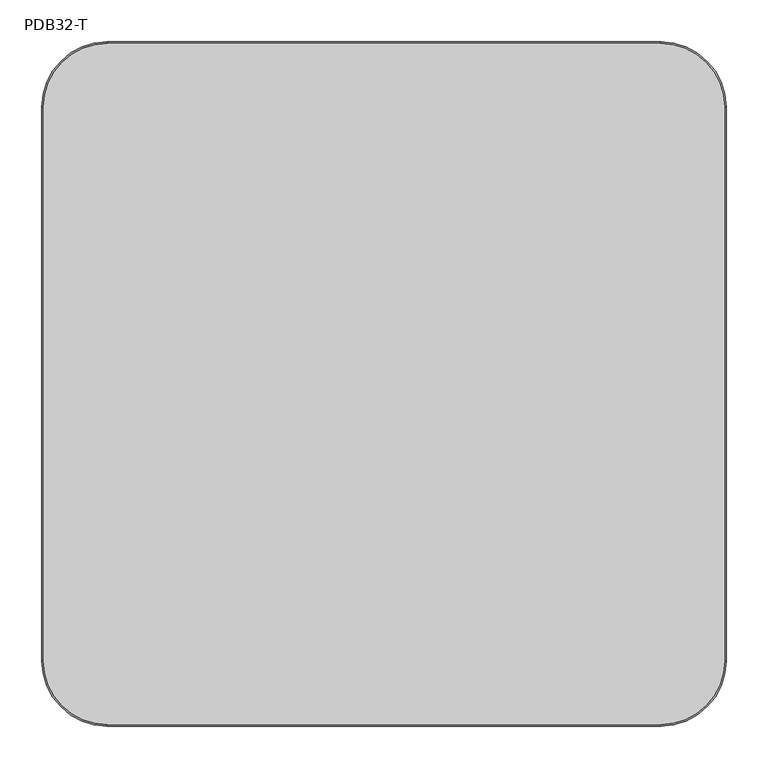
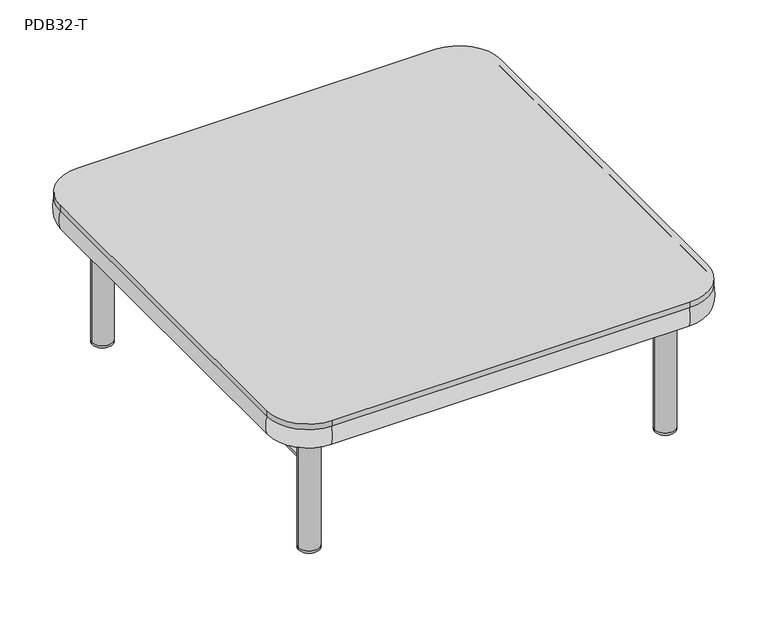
"""IFC4 building model written with IfcOpenShell, lengths in millimetres: furniture geometry, StanceHC-Podium-Lounge_Seating-32_Table : PDB32-T."""

from ifc_helpers import new_model, si_unit, point, frame, frame_2d, origin, origin_with_axes, place, context, project, spatial, polyline, circle_curve, ellipse_curve, trimmed, segment, composite_curve, outline, extrude, source, transform, mapped, element, save
from ifc_brep_helpers import plane_surface, revolved_surface, extruded_surface, advanced_brep


def pdb32_t_8c2d0d75(model_context):
    return source(origin(), model_context, "Body", "SolidModel", [
        extrude(outline(composite_curve([segment(polyline([(687.3875, -771.525), (687.3875, -701.675)]), True, "CONTINUOUS"), segment(trimmed(circle_curve(frame_2d((700.0875, -701.675)), 12.7), [point((687.3875, -701.675))], [point((700.0875, -688.975))], False, "CARTESIAN"), True, "CONTINUOUS"), segment(polyline([(700.0875, -688.975), (769.9375, -688.975)]), True, "CONTINUOUS"), segment(trimmed(circle_curve(frame_2d((769.9375, -701.675)), 12.7), [point((769.9375, -688.975))], [point((782.6375, -701.675))], False, "CARTESIAN"), True, "CONTINUOUS"), segment(polyline([(782.6375, -701.675), (782.6375, -771.525)]), True, "CONTINUOUS"), segment(trimmed(circle_curve(frame_2d((769.9375, -771.525)), 12.7), [point((782.6375, -771.525))], [point((769.9375, -784.225))], False, "CARTESIAN"), True, "CONTINUOUS"), segment(polyline([(769.9375, -784.225), (700.0875, -784.225)]), True, "CONTINUOUS"), segment(trimmed(circle_curve(frame_2d((700.0875, -771.525)), 12.7), [point((700.0875, -784.225))], [point((687.3875, -771.525))], False, "CARTESIAN"), True, "CONTINUOUS")], self_intersect=False)), frame((0.0, 0.0, 240.7285), z_axis=(0.0, 0.0, 1.0), x_axis=(1.0, 0.0, 0.0)), (0.0, 0.0, 1.0), 4.7625),
        extrude(outline(composite_curve([segment(trimmed(circle_curve(frame_2d((735.0125, -736.6)), 19.05), [point((715.9625, -736.6))], [point((754.0625, -736.6))], False, "CARTESIAN"), True, "CONTINUOUS"), segment(trimmed(circle_curve(frame_2d((735.0125, -736.6)), 19.05), [point((754.0625, -736.6))], [point((715.9625, -736.6))], False, "CARTESIAN"), True, "CONTINUOUS")], self_intersect=False)), frame((0.0, 0.0, 4.191), z_axis=(0.0, 0.0, 1.0), x_axis=(1.0, 0.0, 0.0)), (0.0, 0.0, 1.0), 236.5375),
        extrude(outline(composite_curve([segment(trimmed(circle_curve(frame_2d((735.0125, -736.6)), 19.05), [point((715.9625, -736.6))], [point((754.0625, -736.6))], False, "CARTESIAN"), True, "CONTINUOUS"), segment(trimmed(circle_curve(frame_2d((735.0125, -736.6)), 19.05), [point((754.0625, -736.6))], [point((715.9625, -736.6))], False, "CARTESIAN"), True, "CONTINUOUS")], self_intersect=False)), origin_with_axes(), (0.0, 0.0, 1.0), 4.191),
        extrude(outline(composite_curve([segment(polyline([(687.3875, -111.125), (687.3875, -41.275)]), True, "CONTINUOUS"), segment(trimmed(circle_curve(frame_2d((700.0875, -41.275)), 12.7), [point((687.3875, -41.275))], [point((700.0875, -28.575))], False, "CARTESIAN"), True, "CONTINUOUS"), segment(polyline([(700.0875, -28.575), (769.9375, -28.575)]), True, "CONTINUOUS"), segment(trimmed(circle_curve(frame_2d((769.9375, -41.275)), 12.7), [point((769.9375, -28.575))], [point((782.6375, -41.275))], False, "CARTESIAN"), True, "CONTINUOUS"), segment(polyline([(782.6375, -41.275), (782.6375, -111.125)]), True, "CONTINUOUS"), segment(trimmed(circle_curve(frame_2d((769.9375, -111.125)), 12.7), [point((782.6375, -111.125))], [point((769.9375, -123.825))], False, "CARTESIAN"), True, "CONTINUOUS"), segment(polyline([(769.9375, -123.825), (700.0875, -123.825)]), True, "CONTINUOUS"), segment(trimmed(circle_curve(frame_2d((700.0875, -111.125)), 12.7), [point((700.0875, -123.825))], [point((687.3875, -111.125))], False, "CARTESIAN"), True, "CONTINUOUS")], self_intersect=False)), frame((0.0, 0.0, 240.7285), z_axis=(0.0, 0.0, 1.0), x_axis=(1.0, 0.0, 0.0)), (0.0, 0.0, 1.0), 4.7625),
        extrude(outline(composite_curve([segment(trimmed(circle_curve(frame_2d((735.0125, -76.2)), 19.05), [point((715.9625, -76.2))], [point((754.0625, -76.2))], False, "CARTESIAN"), True, "CONTINUOUS"), segment(trimmed(circle_curve(frame_2d((735.0125, -76.2)), 19.05), [point((754.0625, -76.2))], [point((715.9625, -76.2))], False, "CARTESIAN"), True, "CONTINUOUS")], self_intersect=False)), frame((0.0, 0.0, 4.191), z_axis=(0.0, 0.0, 1.0), x_axis=(1.0, 0.0, 0.0)), (0.0, 0.0, 1.0), 236.5375),
        extrude(outline(composite_curve([segment(trimmed(circle_curve(frame_2d((735.0125, -76.2)), 19.05), [point((715.9625, -76.2))], [point((754.0625, -76.2))], False, "CARTESIAN"), True, "CONTINUOUS"), segment(trimmed(circle_curve(frame_2d((735.0125, -76.2)), 19.05), [point((754.0625, -76.2))], [point((715.9625, -76.2))], False, "CARTESIAN"), True, "CONTINUOUS")], self_intersect=False)), origin_with_axes(), (0.0, 0.0, 1.0), 4.191),
        extrude(outline(composite_curve([segment(polyline([(30.1625, -771.525), (30.1625, -701.675)]), True, "CONTINUOUS"), segment(trimmed(circle_curve(frame_2d((42.8625, -701.675)), 12.7), [point((30.1625, -701.675))], [point((42.8625, -688.975))], False, "CARTESIAN"), True, "CONTINUOUS"), segment(polyline([(42.8625, -688.975), (112.7125, -688.975)]), True, "CONTINUOUS"), segment(trimmed(circle_curve(frame_2d((112.7125, -701.675)), 12.7), [point((112.7125, -688.975))], [point((125.4125, -701.675))], False, "CARTESIAN"), True, "CONTINUOUS"), segment(polyline([(125.4125, -701.675), (125.4125, -771.525)]), True, "CONTINUOUS"), segment(trimmed(circle_curve(frame_2d((112.7125, -771.525)), 12.7), [point((125.4125, -771.525))], [point((112.7125, -784.225))], False, "CARTESIAN"), True, "CONTINUOUS"), segment(polyline([(112.7125, -784.225), (42.8625, -784.225)]), True, "CONTINUOUS"), segment(trimmed(circle_curve(frame_2d((42.8625, -771.525)), 12.7), [point((42.8625, -784.225))], [point((30.1625, -771.525))], False, "CARTESIAN"), True, "CONTINUOUS")], self_intersect=False)), frame((0.0, 0.0, 240.7285), z_axis=(0.0, 0.0, 1.0), x_axis=(1.0, 0.0, 0.0)), (0.0, 0.0, 1.0), 4.7625),
        extrude(outline(composite_curve([segment(trimmed(circle_curve(frame_2d((77.7875, -736.6)), 19.05), [point((58.7375, -736.6))], [point((96.8375, -736.6))], False, "CARTESIAN"), True, "CONTINUOUS"), segment(trimmed(circle_curve(frame_2d((77.7875, -736.6)), 19.05), [point((96.8375, -736.6))], [point((58.7375, -736.6))], False, "CARTESIAN"), True, "CONTINUOUS")], self_intersect=False)), frame((0.0, 0.0, 4.191), z_axis=(0.0, 0.0, 1.0), x_axis=(1.0, 0.0, 0.0)), (0.0, 0.0, 1.0), 236.5375),
        extrude(outline(composite_curve([segment(trimmed(circle_curve(frame_2d((77.7875, -736.6)), 19.05), [point((58.7375, -736.6))], [point((96.8375, -736.6))], False, "CARTESIAN"), True, "CONTINUOUS"), segment(trimmed(circle_curve(frame_2d((77.7875, -736.6)), 19.05), [point((96.8375, -736.6))], [point((58.7375, -736.6))], False, "CARTESIAN"), True, "CONTINUOUS")], self_intersect=False)), origin_with_axes(), (0.0, 0.0, 1.0), 4.191),
        extrude(outline(composite_curve([segment(polyline([(30.1625, -111.125), (30.1625, -41.275)]), True, "CONTINUOUS"), segment(trimmed(circle_curve(frame_2d((42.8625, -41.275)), 12.7), [point((30.1625, -41.275))], [point((42.8625, -28.575))], False, "CARTESIAN"), True, "CONTINUOUS"), segment(polyline([(42.8625, -28.575), (112.7125, -28.575)]), True, "CONTINUOUS"), segment(trimmed(circle_curve(frame_2d((112.7125, -41.275)), 12.7), [point((112.7125, -28.575))], [point((125.4125, -41.275))], False, "CARTESIAN"), True, "CONTINUOUS"), segment(polyline([(125.4125, -41.275), (125.4125, -111.125)]), True, "CONTINUOUS"), segment(trimmed(circle_curve(frame_2d((112.7125, -111.125)), 12.7), [point((125.4125, -111.125))], [point((112.7125, -123.825))], False, "CARTESIAN"), True, "CONTINUOUS"), segment(polyline([(112.7125, -123.825), (42.8625, -123.825)]), True, "CONTINUOUS"), segment(trimmed(circle_curve(frame_2d((42.8625, -111.125)), 12.7), [point((42.8625, -123.825))], [point((30.1625, -111.125))], False, "CARTESIAN"), True, "CONTINUOUS")], self_intersect=False)), frame((0.0, 0.0, 240.7285), z_axis=(0.0, 0.0, 1.0), x_axis=(1.0, 0.0, 0.0)), (0.0, 0.0, 1.0), 4.7625),
        extrude(outline(composite_curve([segment(trimmed(circle_curve(frame_2d((77.7875, -76.2)), 19.05), [point((58.7375, -76.2))], [point((96.8375, -76.2))], False, "CARTESIAN"), True, "CONTINUOUS"), segment(trimmed(circle_curve(frame_2d((77.7875, -76.2)), 19.05), [point((96.8375, -76.2))], [point((58.7375, -76.2))], False, "CARTESIAN"), True, "CONTINUOUS")], self_intersect=False)), frame((0.0, 0.0, 4.191), z_axis=(0.0, 0.0, 1.0), x_axis=(1.0, 0.0, 0.0)), (0.0, 0.0, 1.0), 236.5375),
        extrude(outline(composite_curve([segment(trimmed(circle_curve(frame_2d((77.7875, -76.2)), 19.05), [point((58.7375, -76.2))], [point((96.8375, -76.2))], False, "CARTESIAN"), True, "CONTINUOUS"), segment(trimmed(circle_curve(frame_2d((77.7875, -76.2)), 19.05), [point((96.8375, -76.2))], [point((58.7375, -76.2))], False, "CARTESIAN"), True, "CONTINUOUS")], self_intersect=False)), origin_with_axes(), (0.0, 0.0, 1.0), 4.191),
        extrude(outline(composite_curve([segment(trimmed(circle_curve(frame_2d((736.6, -76.2)), 76.2), [point((736.6, 0.0))], [point((812.8, -76.2))], False, "CARTESIAN"), True, "CONTINUOUS"), segment(polyline([(812.8, -76.2), (812.8, -736.6)]), True, "CONTINUOUS"), segment(trimmed(circle_curve(frame_2d((736.6, -736.6)), 76.2), [point((812.8, -736.6))], [point((736.6, -812.8))], False, "CARTESIAN"), True, "CONTINUOUS"), segment(polyline([(736.6, -812.8), (76.2, -812.8)]), True, "CONTINUOUS"), segment(trimmed(circle_curve(frame_2d((76.2, -736.6)), 76.2), [point((76.2, -812.8))], [point((0.0, -736.6))], False, "CARTESIAN"), True, "CONTINUOUS"), segment(polyline([(0.0, -736.6), (0.0, -76.2)]), True, "CONTINUOUS"), segment(trimmed(circle_curve(frame_2d((76.2, -76.2)), 76.2), [point((0.0, -76.2))], [point((76.2, 0.0))], False, "CARTESIAN"), True, "CONTINUOUS"), segment(polyline([(76.2, 0.0), (736.6, 0.0)]), True, "CONTINUOUS")], self_intersect=False)), frame((0.0, 0.0, 281.758409), z_axis=(0.0, 0.0, 1.0), x_axis=(1.0, 0.0, 0.0)), (0.0, 0.0, 1.0), 10.671791),
        extrude(outline(composite_curve([segment(trimmed(circle_curve(frame_2d((169.0530169, 77.7875)), 9.525), [point((169.0530169, 68.2625))], [point((169.0530169, 87.3125))], False, "CARTESIAN"), True, "CONTINUOUS"), segment(trimmed(circle_curve(frame_2d((169.0530169, 77.7875)), 9.525), [point((169.0530169, 87.3125))], [point((169.0530169, 68.2625))], False, "CARTESIAN"), True, "CONTINUOUS")], self_intersect=False)), frame((0.0, -723.9, 0.0), z_axis=(0.0, 1.0, 0.0), x_axis=(0.0, 0.0, 1.0)), (0.0, 0.0, 1.0), 635.0),
        extrude(outline(composite_curve([segment(trimmed(circle_curve(frame_2d((169.0530169, 735.0125)), 9.525), [point((169.0530169, 725.4875))], [point((169.0530169, 744.5375))], False, "CARTESIAN"), True, "CONTINUOUS"), segment(trimmed(circle_curve(frame_2d((169.0530169, 735.0125)), 9.525), [point((169.0530169, 744.5375))], [point((169.0530169, 725.4875))], False, "CARTESIAN"), True, "CONTINUOUS")], self_intersect=False)), frame((0.0, -723.9, 0.0), z_axis=(0.0, 1.0, 0.0), x_axis=(0.0, 0.0, 1.0)), (0.0, 0.0, 1.0), 635.0),
        extrude(outline(composite_curve([segment(polyline([(76.2, -3.175), (736.6, -3.175)]), True, "CONTINUOUS"), segment(trimmed(circle_curve(frame_2d((736.6, -76.2)), 73.025), [point((736.6, -3.175))], [point((809.625, -76.2))], False, "CARTESIAN"), True, "CONTINUOUS"), segment(polyline([(809.625, -76.2), (809.625, -736.6)]), True, "CONTINUOUS"), segment(trimmed(circle_curve(frame_2d((736.6, -736.6)), 73.025), [point((809.625, -736.6))], [point((736.6, -809.625))], False, "CARTESIAN"), True, "CONTINUOUS"), segment(polyline([(736.6, -809.625), (76.2, -809.625)]), True, "CONTINUOUS"), segment(trimmed(circle_curve(frame_2d((76.2, -736.6)), 73.025), [point((76.2, -809.625))], [point((3.175, -736.6))], False, "CARTESIAN"), True, "CONTINUOUS"), segment(polyline([(3.175, -736.6), (3.175, -76.2)]), True, "CONTINUOUS"), segment(trimmed(circle_curve(frame_2d((76.2, -76.2)), 73.025), [point((3.175, -76.2))], [point((76.2, -3.175))], False, "CARTESIAN"), True, "CONTINUOUS")], self_intersect=False)), frame((0.0, 0.0, 244.173991), z_axis=(0.0, 0.0, 1.0), x_axis=(1.0, 0.0, 0.0)), (0.0, 0.0, 1.0), 37.5844179),
        advanced_brep(
        [(809.625, -76.2, 281.758409), (736.6, -3.175, 281.758409), (736.6, -3.175, 244.173991), (809.625, -76.2, 244.173991), (809.625, -736.6, 244.173991), (809.625, -736.6, 281.758409), (736.6, -809.625, 281.758409), (736.6, -809.625, 244.173991), (76.2, -809.625, 244.173991), (76.2, -809.625, 281.758409), (3.175, -736.6, 281.758409), (3.175, -736.6, 244.173991), (3.175, -76.2, 244.173991), (3.175, -76.2, 281.758409), (76.2, -3.175, 281.758409), (76.2, -3.175, 244.173991)],
        [
            (0, 1, circle_curve(frame((736.6, -76.2, 281.758409), z_axis=(0.0, 0.0, 1.0), x_axis=(0.0, 1.0, 0.0)), 73.025)),
            (1, 2),
            (2, 3, circle_curve(frame((736.6, -76.2, 244.173991), z_axis=(0.0, 0.0, -1.0), x_axis=(0.0, 1.0, 0.0)), 73.025)),
            (3, 0),
            (2, 1, ellipse_curve(frame((736.6, -3.175, 262.9662), z_axis=(1.0, 0.0, 0.0), x_axis=(0.0, 0.0, 1.0)), 18.792209, 4.8860427)),
            (0, 3, ellipse_curve(frame((809.625, -76.2, 262.9662), z_axis=(0.0, 1.0, 0.0), x_axis=(0.0, 0.0, 1.0)), 18.792209, 4.8860427)),
            (3, 4),
            (4, 5),
            (5, 0),
            (5, 4, ellipse_curve(frame((809.625, -736.6, 262.9662), z_axis=(0.0, 1.0, 0.0), x_axis=(0.0, 0.0, 1.0)), 18.792209, 4.8860427)),
            (6, 5, circle_curve(frame((736.6, -736.6, 281.758409), z_axis=(0.0, 0.0, 1.0), x_axis=(1.0, 0.0, 0.0)), 73.025)),
            (4, 7, circle_curve(frame((736.6, -736.6, 244.173991), z_axis=(0.0, 0.0, -1.0), x_axis=(1.0, 0.0, 0.0)), 73.025)),
            (7, 6),
            (6, 7, ellipse_curve(frame((736.6, -809.625, 262.9662), z_axis=(1.0, 0.0, 0.0), x_axis=(0.0, 0.0, 1.0)), 18.792209, 4.8860427)),
            (7, 8),
            (8, 9),
            (9, 6),
            (9, 8, ellipse_curve(frame((76.2, -809.625, 262.9662), z_axis=(1.0, 0.0, 0.0), x_axis=(0.0, 0.0, 1.0)), 18.792209, 4.8860427)),
            (10, 9, circle_curve(frame((76.2, -736.6, 281.758409), z_axis=(0.0, 0.0, 1.0), x_axis=(0.0, -1.0, 0.0)), 73.025)),
            (8, 11, circle_curve(frame((76.2, -736.6, 244.173991), z_axis=(0.0, 0.0, -1.0), x_axis=(0.0, -1.0, 0.0)), 73.025)),
            (11, 10),
            (10, 11, ellipse_curve(frame((3.175, -736.6, 262.9662), z_axis=(0.0, -1.0, 0.0), x_axis=(0.0, 0.0, 1.0)), 18.792209, 4.8860427)),
            (11, 12),
            (12, 13),
            (13, 10),
            (13, 12, ellipse_curve(frame((3.175, -76.2, 262.9662), z_axis=(0.0, -1.0, 0.0), x_axis=(0.0, 0.0, 1.0)), 18.792209, 4.8860427)),
            (14, 13, circle_curve(frame((76.2, -76.2, 281.758409), z_axis=(0.0, 0.0, 1.0), x_axis=(-1.0, 0.0, 0.0)), 73.025)),
            (12, 15, circle_curve(frame((76.2, -76.2, 244.173991), z_axis=(0.0, 0.0, -1.0), x_axis=(-1.0, 0.0, 0.0)), 73.025)),
            (15, 14),
            (14, 15, ellipse_curve(frame((76.2, -3.175, 262.9662), z_axis=(-1.0, 0.0, 0.0), x_axis=(0.0, 0.0, 1.0)), 18.792209, 4.8860427)),
            (15, 2),
            (1, 14),
        ],
        [
            revolved_surface(polyline([(736.6, -3.174999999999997, 244.173991), (736.6, -3.174999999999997, 281.758409)]), (736.6, -76.2, 244.173991), (0.0, 0.0, -1.0)),
            revolved_surface(trimmed(ellipse_curve(frame((736.6, -3.175, 262.9662), z_axis=(-1.0, 0.0, 0.0), x_axis=(0.0, 0.0, 1.0)), 18.792209, 4.8860427), [point((736.6, -3.175, 281.758409))], [point((736.6, -3.175, 244.173991))], True, "CARTESIAN"), (736.6, -76.2, 244.173991), (0.0, 0.0, -1.0)),
            plane_surface(frame((809.625, -76.2, 244.173991), z_axis=(-1.0, 0.0, 0.0), x_axis=(0.0, -1.0, 0.0))),
            extruded_surface(trimmed(ellipse_curve(frame((809.625, -736.6, 262.9662), z_axis=(0.0, 1.0, 0.0), x_axis=(0.0, 0.0, 1.0)), 18.792209, 4.8860427), [point((809.625, -736.6, 281.758409))], [point((809.625, -736.6, 244.173991))], True, "CARTESIAN"), (0.0, 660.4, 0.0), 660.4),
            revolved_surface(polyline([(809.625, -736.6, 244.173991), (809.625, -736.6, 281.758409)]), (736.6, -736.6, 244.173991), (0.0, 0.0, -1.0)),
            revolved_surface(trimmed(ellipse_curve(frame((809.625, -736.6, 262.9662), z_axis=(0.0, 1.0, 0.0), x_axis=(0.0, 0.0, 1.0)), 18.792209, 4.8860427), [point((809.625, -736.6, 281.758409))], [point((809.625, -736.6, 244.173991))], True, "CARTESIAN"), (736.6, -736.6, 244.173991), (0.0, 0.0, -1.0)),
            plane_surface(frame((736.6, -809.625, 244.173991), z_axis=(0.0, 1.0, 0.0), x_axis=(-1.0, 0.0, 0.0))),
            extruded_surface(trimmed(ellipse_curve(frame((76.2, -809.625, 262.9662), z_axis=(1.0, 0.0, 0.0), x_axis=(0.0, 0.0, 1.0)), 18.792209, 4.8860427), [point((76.2, -809.625, 281.758409))], [point((76.2, -809.625, 244.173991))], True, "CARTESIAN"), (660.4, 0.0, 0.0), 660.4),
            revolved_surface(polyline([(76.2, -809.625, 244.173991), (76.2, -809.625, 281.758409)]), (76.2, -736.6, 244.173991), (0.0, 0.0, -1.0)),
            revolved_surface(trimmed(ellipse_curve(frame((76.2, -809.625, 262.9662), z_axis=(1.0, 0.0, 0.0), x_axis=(0.0, 0.0, 1.0)), 18.792209, 4.8860427), [point((76.2, -809.625, 281.758409))], [point((76.2, -809.625, 244.173991))], True, "CARTESIAN"), (76.2, -736.6, 244.173991), (0.0, 0.0, -1.0)),
            plane_surface(frame((3.175, -736.6, 244.173991), z_axis=(1.0, 0.0, 0.0), x_axis=(0.0, 1.0, 0.0))),
            extruded_surface(trimmed(ellipse_curve(frame((3.175, -76.2, 262.9662), z_axis=(0.0, -1.0, 0.0), x_axis=(0.0, 0.0, 1.0)), 18.792209, 4.8860427), [point((3.175, -76.2, 281.758409))], [point((3.175, -76.2, 244.173991))], True, "CARTESIAN"), (0.0, -660.4, 0.0), 660.4),
            revolved_surface(polyline([(3.174999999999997, -76.2, 244.173991), (3.174999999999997, -76.2, 281.758409)]), (76.2, -76.2, 244.173991), (0.0, 0.0, -1.0)),
            revolved_surface(trimmed(ellipse_curve(frame((3.175, -76.2, 262.9662), z_axis=(0.0, -1.0, 0.0), x_axis=(0.0, 0.0, 1.0)), 18.792209, 4.8860427), [point((3.175, -76.2, 281.758409))], [point((3.175, -76.2, 244.173991))], True, "CARTESIAN"), (76.2, -76.2, 244.173991), (0.0, 0.0, -1.0)),
            plane_surface(frame((76.2, -3.175, 244.173991), z_axis=(0.0, -1.0, 0.0), x_axis=(1.0, 0.0, 0.0))),
            extruded_surface(trimmed(ellipse_curve(frame((736.6, -3.175, 262.9662), z_axis=(-1.0, 0.0, 0.0), x_axis=(0.0, 0.0, 1.0)), 18.792209, 4.8860427), [point((736.6, -3.175, 281.758409))], [point((736.6, -3.175, 244.173991))], True, "CARTESIAN"), (-660.4, 0.0, 0.0), 660.4),
        ],
        [
            (0, [[1, 2, 3, 4]]),
            (1, [[-3, 5, -1, 6]]),
            (2, [[-4, 7, 8, 9]]),
            (3, [[-6, -9, 10, -7]]),
            (4, [[11, -8, 12, 13]]),
            (5, [[-12, -10, -11, 14]]),
            (6, [[-13, 15, 16, 17]]),
            (7, [[-14, -17, 18, -15]]),
            (8, [[19, -16, 20, 21]]),
            (9, [[-20, -18, -19, 22]]),
            (10, [[-21, 23, 24, 25]]),
            (11, [[-22, -25, 26, -23]]),
            (12, [[27, -24, 28, 29]]),
            (13, [[-28, -26, -27, 30]]),
            (14, [[-29, 31, -2, 32]]),
            (15, [[-30, -32, -5, -31]]),
        ],
    ),
    ])


if __name__ == "__main__":
    model = new_model("IFC4")
    model_context = context("Model", 3, world=origin())
    ifc_project = project(units=[si_unit("LENGTHUNIT", "METRE", prefix="MILLI")], contexts=[model_context])
    site = spatial("IfcSite", under=ifc_project)
    building = spatial("IfcBuilding", under=site)
    placement = place(None, origin())
    pdb32_t_shape = pdb32_t_8c2d0d75(model_context)
    element("IfcFurniture", 1, ObjectType="StanceHC-Podium-Lounge_Seating-32_Table : PDB32-T", at=placement, inside=building, context=model_context, shape_type="MappedRepresentation", body=[
        mapped(pdb32_t_shape, transform((0.0, 0.0, 0.0), x_axis=(1.0, 0.0, 0.0), y_axis=(0.0, 1.0, 0.0), z_axis=(0.0, 0.0, 1.0))),
    ])
    save(model, "model.ifc")
